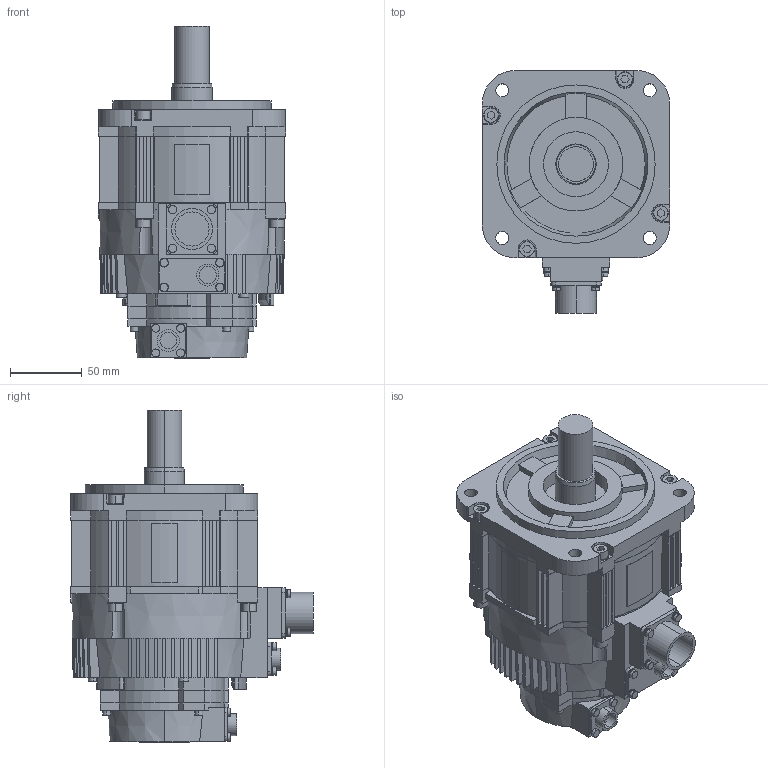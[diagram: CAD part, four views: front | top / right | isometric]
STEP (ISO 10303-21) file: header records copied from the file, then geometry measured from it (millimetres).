
FILE_DESCRIPTION (( 'STEP AP203' ), '1' );
FILE_NAME ('sgm7g_09a_a2c.STEP', '2016-02-23T02:33:00', ( '匠エンジニアリング山之内' ), ( 'TAKUMI-Engniaring' ), 'SwSTEP 2.0', 'SolidWorks 2006303', '' );
FILE_SCHEMA (( 'CONFIG_CONTROL_DESIGN' ));
Length unit declared in the file: millimetre
Products named in the file (1): sgm7g_09a_a2c
Bounding box: 130 x 168.49 x 230.6 mm (x, y, z)
Volume: 2047806.6 mm3; surface area: 156367.7 mm2
Topology: 1 solids, 1 shells, 929 faces, 2370 edges, 1539 vertices
Faces by surface type: plane 579, cylinder 250, cone 100
Entity records: 28745 total; most frequent: CARTESIAN_POINT 5775, DIRECTION 4824, ORIENTED_EDGE 4740, EDGE_CURVE 2370, AXIS2_PLACEMENT_3D 1702, VERTEX_POINT 1539, VECTOR 1420, LINE 1420
